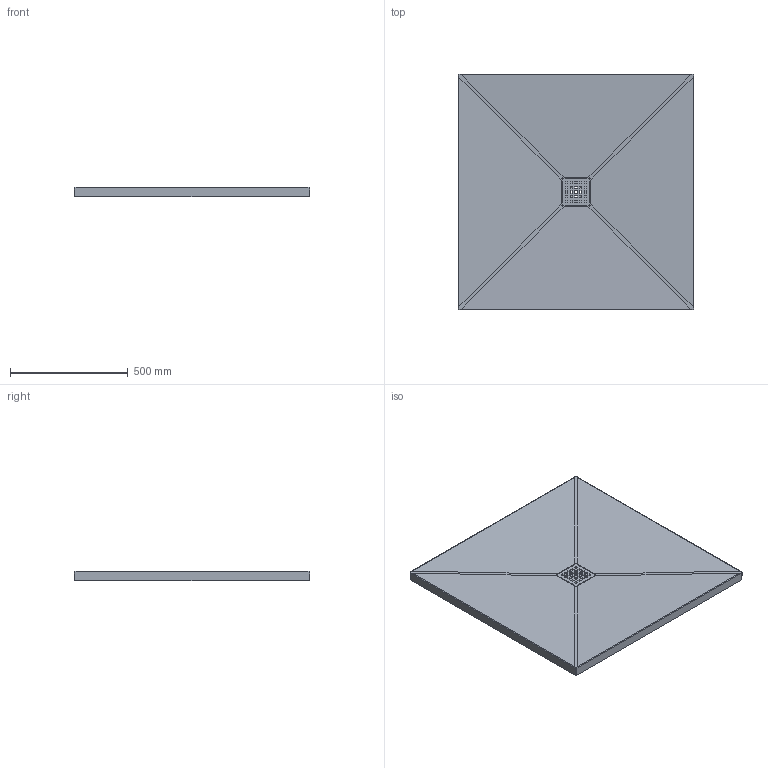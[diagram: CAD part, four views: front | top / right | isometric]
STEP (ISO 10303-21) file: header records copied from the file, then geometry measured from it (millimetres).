
FILE_DESCRIPTION (( 'STEP AP214' ), '1' );
FILE_NAME ('TRENT 100x100.STEP', '2024-05-13T11:58:24', ( '' ), ( '' ), 'SwSTEP 2.0', 'SolidWorks 2021', '' );
FILE_SCHEMA (( 'AUTOMOTIVE_DESIGN' ));
Length unit declared in the file: millimetre
Products named in the file (1): TRENT 100x100
Bounding box: 1000 x 1000 x 40.02 mm (x, y, z)
Volume: 14165963.1 mm3; surface area: 2477596.5 mm2
Topology: 3 solids, 3 shells, 825 faces, 1941 edges, 1119 vertices
Faces by surface type: cylinder 365, bspline 287, plane 173
Full cylindrical faces by diameter (mm): 66 x1
Entity records: 37817 total; most frequent: CARTESIAN_POINT 21355, ORIENTED_EDGE 3870, DIRECTION 2448, EDGE_CURVE 1935, VERTEX_POINT 1119, EDGE_LOOP 890, LINE 876, VECTOR 876
